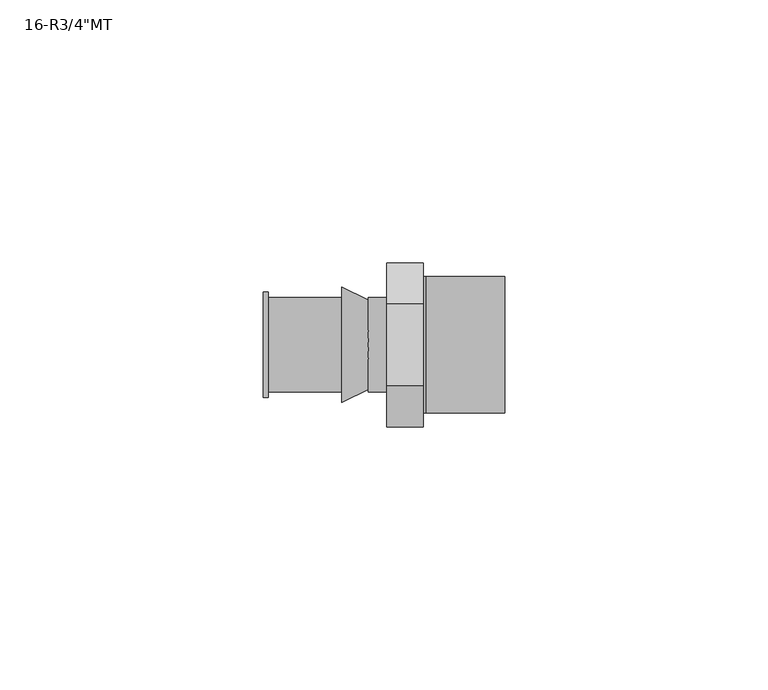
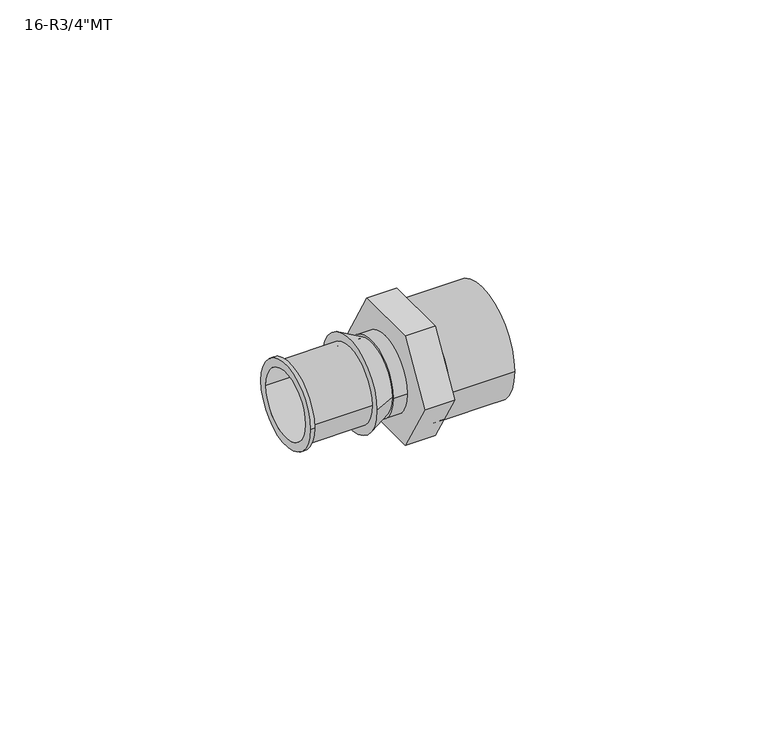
"""IFC4 building model written with IfcOpenShell, lengths in millimetres: pipe fitting geometry."""

from ifc_helpers import new_model, si_unit, point, frame, origin, origin_2d, place, context, project, spatial, polyline, circle_curve, trimmed, segment, composite_curve, outline, extrude, source, transform, mapped, element, save
from ifc_brep_helpers import plane_surface, cylinder_surface, revolved_surface, advanced_brep


def pipe_fitting_153eb18a(model_context):
    return source(origin(), model_context, "Body", "SolidModel", [
        advanced_brep(
        [(-3.5, -15.5884573, 0.0), (-3.5, -7.7942286, 13.5), (-3.5, 7.7942286, 13.5), (-3.5, 15.5884573, 0.0), (-3.5, 7.7942286, -13.5), (-3.5, -7.7942286, -13.5), (3.5, -15.5884573, 0.0), (3.5, -7.7942286, -13.5), (3.5, 7.7942286, -13.5), (3.5, 15.5884573, 0.0), (3.5, 7.7942286, 13.5), (3.5, -7.7942286, 13.5), (3.5, -13.0, 0.0), (3.5, 13.0, 0.0), (19.0, -13.0, 0.0), (19.0, 13.0, 0.0), (19.0, -10.0, 0.0), (19.0, 10.0, 0.0), (4.0, 13.0, 0.0), (4.0, -13.0, 0.0), (4.0, 10.0, 0.0), (4.0, -10.0, 0.0)],
        [
            (0, 1),
            (1, 2),
            (2, 3),
            (3, 4),
            (4, 5),
            (5, 0),
            (6, 7),
            (7, 8),
            (8, 9),
            (9, 10),
            (10, 11),
            (11, 6),
            (12, 13, circle_curve(frame((3.5, 0.0, 0.0), z_axis=(-1.0, 0.0, 0.0), x_axis=(0.0, 1.0, 0.0)), 13.0)),
            (13, 12, circle_curve(frame((3.5, 0.0, 0.0), z_axis=(-1.0, 0.0, 0.0), x_axis=(0.0, 1.0, 0.0)), 13.0)),
            (0, 6),
            (11, 1),
            (10, 2),
            (9, 3),
            (8, 4),
            (7, 5),
            (14, 15, circle_curve(frame((19.0, 0.0, 0.0), z_axis=(1.0, 0.0, 0.0), x_axis=(0.0, 1.0, 0.0)), 13.0)),
            (15, 14, circle_curve(frame((19.0, 0.0, 0.0), z_axis=(1.0, 0.0, 0.0), x_axis=(0.0, 1.0, 0.0)), 13.0)),
            (16, 17, circle_curve(frame((19.0, 0.0, 0.0), z_axis=(-1.0, 0.0, 0.0), x_axis=(0.0, 1.0, 0.0)), 10.0)),
            (17, 16, circle_curve(frame((19.0, 0.0, 0.0), z_axis=(-1.0, 0.0, 0.0), x_axis=(0.0, 1.0, 0.0)), 10.0)),
            (15, 18),
            (18, 19, circle_curve(frame((4.0, 0.0, 0.0), z_axis=(1.0, 0.0, 0.0), x_axis=(0.0, 1.0, 0.0)), 13.0)),
            (19, 14),
            (19, 18, circle_curve(frame((4.0, 0.0, 0.0), z_axis=(1.0, 0.0, 0.0), x_axis=(0.0, 1.0, 0.0)), 13.0)),
            (17, 20),
            (20, 21, circle_curve(frame((4.0, 0.0, 0.0), z_axis=(-1.0, 0.0, 0.0), x_axis=(0.0, 1.0, 0.0)), 10.0)),
            (21, 16),
            (21, 20, circle_curve(frame((4.0, 0.0, 0.0), z_axis=(-1.0, 0.0, 0.0), x_axis=(0.0, 1.0, 0.0)), 10.0)),
            (12, 19),
            (18, 13),
        ],
        [
            plane_surface(frame((-3.5, 0.0, 0.0), z_axis=(-1.0, 0.0, 0.0), x_axis=(0.0, 0.0, 1.0))),
            plane_surface(frame((3.5, 0.0, 0.0), z_axis=(1.0, 0.0, 0.0), x_axis=(0.0, 0.0, 1.0))),
            plane_surface(frame((-3.5, -15.5884573, 0.0), z_axis=(0.0, -0.8660254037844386, 0.5000000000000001), x_axis=(1.0, 0.0, 0.0))),
            plane_surface(frame((-3.5, -7.7942286, 13.5), z_axis=(0.0, 0.0, 1.0), x_axis=(1.0, 0.0, 0.0))),
            plane_surface(frame((-3.5, 7.7942286, 13.5), z_axis=(0.0, 0.8660254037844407, 0.49999999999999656), x_axis=(1.0, 0.0, 0.0))),
            plane_surface(frame((-3.5, 15.5884573, 0.0), z_axis=(0.0, 0.8660254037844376, -0.500000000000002), x_axis=(1.0, 0.0, 0.0))),
            plane_surface(frame((-3.5, 7.7942286, -13.5), z_axis=(0.0, 0.0, -1.0), x_axis=(1.0, 0.0, 0.0))),
            plane_surface(frame((-3.5, -7.7942286, -13.5), z_axis=(0.0, -0.8660254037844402, -0.49999999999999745), x_axis=(1.0, 0.0, 0.0))),
            plane_surface(frame((19.0, 0.0, 0.0), z_axis=(1.0, 0.0, 0.0), x_axis=(0.0, 0.0, 1.0))),
            cylinder_surface(frame((4.0, 0.0, 0.0), z_axis=(-1.0, 0.0, 0.0), x_axis=(0.0, 1.0, 0.0)), 13.0),
            revolved_surface(polyline([(19.0, 10.0, 0.0), (4.0, 10.0, 0.0)]), (4.0, 0.0, 0.0), (1.0, 0.0, 0.0)),
            plane_surface(frame((4.0, 0.0, 0.0), z_axis=(1.0, 0.0, 0.0), x_axis=(0.0, 0.0, 1.0))),
            cylinder_surface(frame((0.0, 0.0, 0.0), z_axis=(-1.0, 0.0, 0.0), x_axis=(0.0, 1.0, 0.0)), 13.0),
        ],
        [
            (0, [[1, 2, 3, 4, 5, 6]]),
            (1, [[7, 8, 9, 10, 11, 12], [13, 14]]),
            (2, [[-1, 15, -12, 16]]),
            (3, [[-2, -16, -11, 17]]),
            (4, [[-3, -17, -10, 18]]),
            (5, [[-4, -18, -9, 19]]),
            (6, [[-5, -19, -8, 20]]),
            (7, [[-6, -20, -7, -15]]),
            (8, [[21, 22], [23, 24]]),
            (9, [[-22, 25, 26, 27]]),
            (9, [[-21, -27, 28, -25]]),
            (10, [[-24, 29, 30, 31]]),
            (10, [[-23, -31, 32, -29]]),
            (11, [[-30, -32]]),
            (12, [[33, -26, 34, -13]]),
            (12, [[-33, -14, -34, -28]]),
        ],
    ),
        advanced_brep(
        [(-27.0, -10.0, 0.0), (-27.0, 10.0, 0.0), (-27.0, -8.0, 0.0), (-27.0, 8.0, 0.0), (-12.0, -9.0, 0.0), (-12.0, 9.0, 0.0), (-12.0, -8.0, 0.0), (-12.0, 8.0, 0.0), (-26.0, 9.0, 0.0), (-26.0, -9.0, 0.0), (-26.0, -10.0, 0.0), (-26.0, 10.0, 0.0)],
        [
            (0, 1, circle_curve(frame((-27.0, 0.0, 0.0), z_axis=(-1.0, 0.0, 0.0), x_axis=(0.0, 1.0, 0.0)), 10.0)),
            (1, 0, circle_curve(frame((-27.0, 0.0, 0.0), z_axis=(-1.0, 0.0, 0.0), x_axis=(0.0, 1.0, 0.0)), 10.0)),
            (2, 3, circle_curve(frame((-27.0, 0.0, 0.0), z_axis=(1.0, 0.0, 0.0), x_axis=(0.0, 1.0, 0.0)), 8.0)),
            (3, 2, circle_curve(frame((-27.0, 0.0, 0.0), z_axis=(1.0, 0.0, 0.0), x_axis=(0.0, 1.0, 0.0)), 8.0)),
            (4, 5, circle_curve(frame((-12.0, 0.0, 0.0), z_axis=(1.0, 0.0, 0.0), x_axis=(0.0, 1.0, 0.0)), 9.0)),
            (5, 4, circle_curve(frame((-12.0, 0.0, 0.0), z_axis=(1.0, 0.0, 0.0), x_axis=(0.0, 1.0, 0.0)), 9.0)),
            (6, 7, circle_curve(frame((-12.0, 0.0, 0.0), z_axis=(-1.0, 0.0, 0.0), x_axis=(0.0, 1.0, 0.0)), 8.0)),
            (7, 6, circle_curve(frame((-12.0, 0.0, 0.0), z_axis=(-1.0, 0.0, 0.0), x_axis=(0.0, 1.0, 0.0)), 8.0)),
            (2, 6),
            (7, 3),
            (5, 8),
            (8, 9, circle_curve(frame((-26.0, 0.0, 0.0), z_axis=(1.0, 0.0, 0.0), x_axis=(0.0, 1.0, 0.0)), 9.0)),
            (9, 4),
            (9, 8, circle_curve(frame((-26.0, 0.0, 0.0), z_axis=(1.0, 0.0, 0.0), x_axis=(0.0, 1.0, 0.0)), 9.0)),
            (10, 11, circle_curve(frame((-26.0, 0.0, 0.0), z_axis=(1.0, 0.0, 0.0), x_axis=(0.0, 1.0, 0.0)), 10.0)),
            (11, 10, circle_curve(frame((-26.0, 0.0, 0.0), z_axis=(1.0, 0.0, 0.0), x_axis=(0.0, 1.0, 0.0)), 10.0)),
            (0, 10),
            (11, 1),
        ],
        [
            plane_surface(frame((-27.0, 0.0, 0.0), z_axis=(-1.0, 0.0, 0.0), x_axis=(0.0, 0.0, 1.0))),
            plane_surface(frame((-12.0, 0.0, 0.0), z_axis=(1.0, 0.0, 0.0), x_axis=(0.0, 0.0, 1.0))),
            revolved_surface(polyline([(-12.0, 8.0, 0.0), (-27.0, 8.0, 0.0)]), (-27.0, 0.0, 0.0), (1.0, 0.0, 0.0)),
            cylinder_surface(frame((-27.0, 0.0, 0.0), z_axis=(-1.0, 0.0, 0.0), x_axis=(0.0, 1.0, 0.0)), 9.0),
            plane_surface(frame((-26.0, 0.0, 0.0), z_axis=(1.0, 0.0, 0.0), x_axis=(0.0, 0.0, 1.0))),
            cylinder_surface(frame((-27.0, 0.0, 0.0), z_axis=(-1.0, 0.0, 0.0), x_axis=(0.0, 1.0, 0.0)), 10.0),
        ],
        [
            (0, [[1, 2], [3, 4]]),
            (1, [[5, 6], [7, 8]]),
            (2, [[-3, 9, -8, 10]]),
            (2, [[-4, -10, -7, -9]]),
            (3, [[-6, 11, 12, 13]]),
            (3, [[-5, -13, 14, -11]]),
            (4, [[15, 16], [-12, -14]]),
            (5, [[-1, 17, -16, 18]]),
            (5, [[-2, -18, -15, -17]]),
        ],
    ),
        advanced_brep(
        [(-7.0, -8.5, 0.0), (-7.0, 8.5, 0.0), (-7.0, 8.0, 0.0), (-7.0, -8.0, 0.0), (-12.0, -11.0, 0.0), (-12.0, 11.0, 0.0), (-12.0, -8.0, 0.0), (-12.0, 8.0, 0.0)],
        [
            (0, 1, circle_curve(frame((-7.0, 0.0, 0.0), z_axis=(1.0, 0.0, 0.0), x_axis=(0.0, -1.0, 0.0)), 8.5)),
            (1, 0, circle_curve(frame((-7.0, 0.0, 0.0), z_axis=(1.0, 0.0, 0.0), x_axis=(0.0, 1.0, 0.0)), 8.5)),
            (2, 3, circle_curve(frame((-7.0, 0.0, 0.0), z_axis=(-1.0, 0.0, 0.0), x_axis=(0.0, 1.0, 0.0)), 8.0)),
            (3, 2, circle_curve(frame((-7.0, 0.0, 0.0), z_axis=(-1.0, 0.0, 0.0), x_axis=(0.0, 1.0, 0.0)), 8.0)),
            (4, 5, circle_curve(frame((-12.0, 0.0, 0.0), z_axis=(-1.0, 0.0, 0.0), x_axis=(0.0, 1.0, 0.0)), 11.0)),
            (5, 4, circle_curve(frame((-12.0, 0.0, 0.0), z_axis=(-1.0, 0.0, 0.0), x_axis=(0.0, -1.0, 0.0)), 11.0)),
            (6, 7, circle_curve(frame((-12.0, 0.0, 0.0), z_axis=(1.0, 0.0, 0.0), x_axis=(0.0, 1.0, 0.0)), 8.0)),
            (7, 6, circle_curve(frame((-12.0, 0.0, 0.0), z_axis=(1.0, 0.0, 0.0), x_axis=(0.0, 1.0, 0.0)), 8.0)),
            (0, 4),
            (5, 1),
            (2, 7),
            (6, 3),
        ],
        [
            plane_surface(frame((-7.0, 0.0, 0.0), z_axis=(1.0, 0.0, 0.0), x_axis=(0.0, 0.0, -1.0))),
            plane_surface(frame((-12.0, 0.0, 0.0), z_axis=(-1.0, 0.0, 0.0), x_axis=(0.0, 0.0, -1.0))),
            revolved_surface(polyline([(-7.0, -8.5, 0.0), (-12.0, -11.0, 0.0)]), (10.0, 0.0, 0.0), (-1.0, 0.0, 0.0)),
            revolved_surface(polyline([(-7.0, 8.5, 0.0), (-12.0, 11.0, 0.0)]), (10.0, 0.0, 0.0), (-1.0, 0.0, 0.0)),
            revolved_surface(polyline([(-7.0, 8.0, 0.0), (-12.0, 8.0, 0.0)]), (-12.0, 0.0, 0.0), (1.0, 0.0, 0.0)),
        ],
        [
            (0, [[1, 2], [3, 4]]),
            (1, [[5, 6], [7, 8]]),
            (2, [[-1, 9, -6, 10]]),
            (3, [[-2, -10, -5, -9]]),
            (4, [[11, -7, 12, -3]]),
            (4, [[-11, -4, -12, -8]]),
        ],
    ),
        extrude(outline(composite_curve([segment(trimmed(circle_curve(origin_2d(), 9.0), [point((-9.0, 0.0))], [point((9.0, 0.0))], False, "CARTESIAN"), True, "CONTINUOUS"), segment(trimmed(circle_curve(origin_2d(), 9.0), [point((9.0, 0.0))], [point((-9.0, 0.0))], False, "CARTESIAN"), True, "CONTINUOUS")], self_intersect=False)), frame((-7.0, 0.0, 0.0), z_axis=(1.0, 0.0, 0.0), x_axis=(0.0, 1.0, 0.0)), (0.0, 0.0, 1.0), 3.5),
    ])


if __name__ == "__main__":
    model = new_model("IFC4")
    model_context = context("Model", 3, world=origin())
    ifc_project = project(units=[si_unit("LENGTHUNIT", "METRE", prefix="MILLI")], contexts=[model_context])
    site = spatial("IfcSite", under=ifc_project)
    building = spatial("IfcBuilding", under=site)
    placement = place(None, origin())
    pipe_fitting_shape = pipe_fitting_153eb18a(model_context)
    element("IfcPipeFitting", 1, ObjectType="SuperPipe_AdapterMT : 16-R3/4\"MT", at=placement, inside=building, context=model_context, shape_type="MappedRepresentation", body=[
        mapped(pipe_fitting_shape, transform((0.0, 0.0, 0.0), x_axis=(1.0, 0.0, 0.0), y_axis=(0.0, 1.0, 0.0), z_axis=(0.0, 0.0, 1.0))),
    ])
    save(model, "model.ifc")
